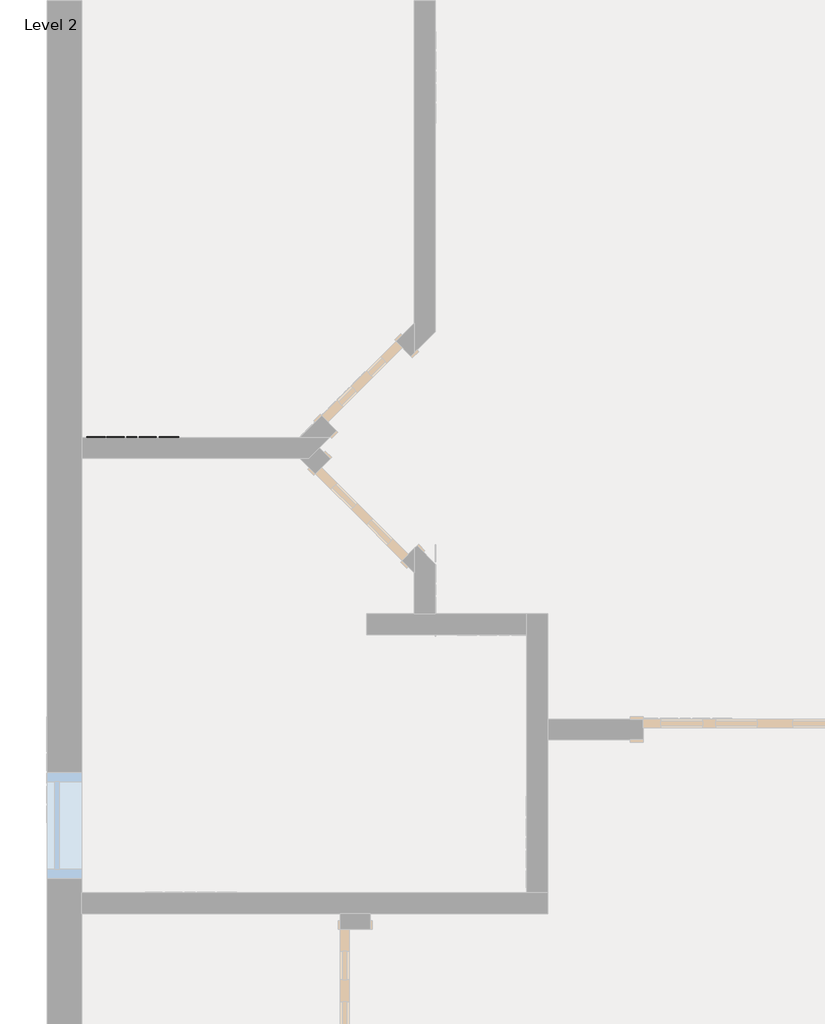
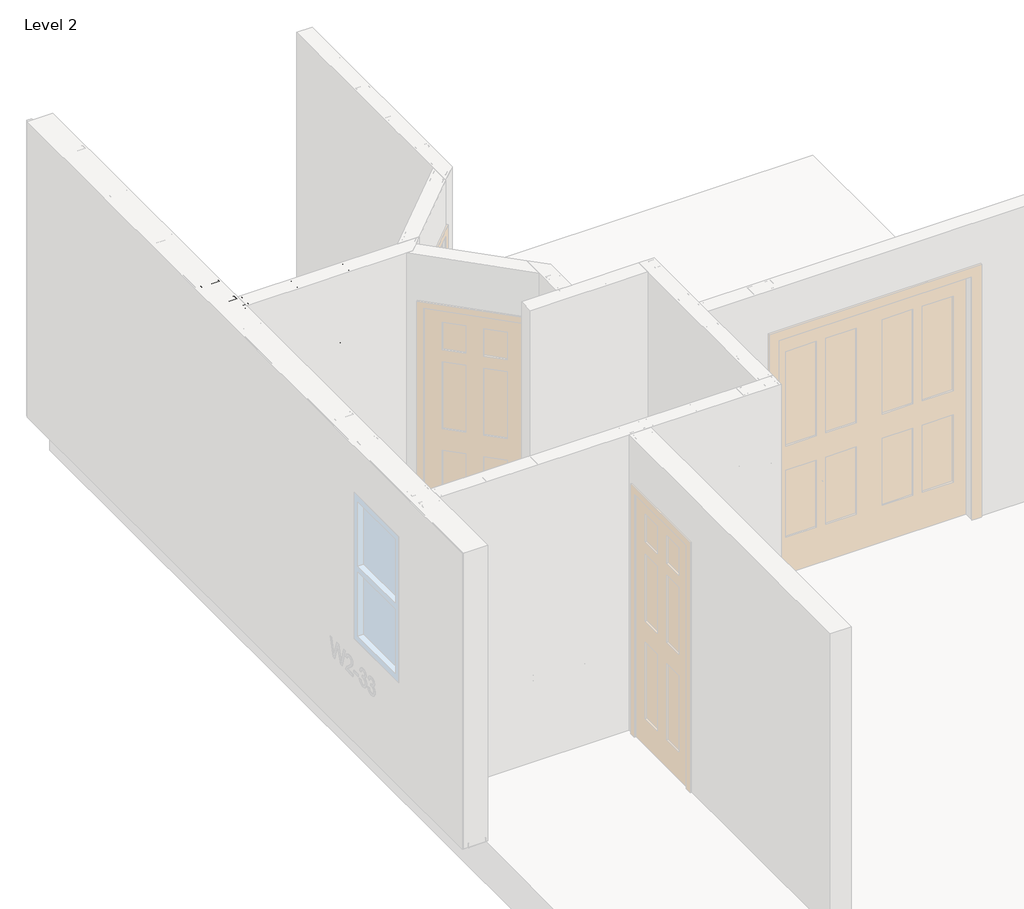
# One storey, part 28 of 46: 8 columns, 2 beams, 1 fastener.
"""IFC4 building model written with IfcOpenShell, lengths in millimetres."""

from ifc_helpers import new_model, si_unit, point, frame, origin, place, context, project, spatial, circle_curve, ellipse_curve, trimmed, transform, mapped, element, save
from ifc_brep_helpers import plane_surface, extruded_surface, advanced_brep
from components import beam_350nf150_33_a1fc3611, beam_350nf150_33_3c5b6d2f, column_550nf150_43_e978d052, panellabel_82f71f91

model = new_model("IFC4")

# Units and contexts
model_context = context("Model", 3, world=origin())
ifc_project = project(units=[si_unit("LENGTHUNIT", "METRE", prefix="MILLI")], contexts=[model_context])

# Site, building, storey
site = spatial("IfcSite", under=ifc_project)
building = spatial("IfcBuilding", under=site)
storey = spatial("IfcBuildingStorey", under=building, Name="Level 2", Elevation=3060.7)

# Beams
placement = place(None, origin())
beam_350nf150_33_shape = beam_350nf150_33_a1fc3611(model_context)
element("IfcBeam", 1, ObjectType="BIMSF-SSMA-S : 350NF150-33", at=placement, inside=storey, context=model_context, shape_type="MappedRepresentation", body=[
    mapped(beam_350nf150_33_shape, transform((-14495.2231513, 11261.852221, 3076.575), x_axis=(1.0000000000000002, 0.0, 0.0), y_axis=(0.0, 0.0, -1.0000000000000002), z_axis=(0.0, 1.0000000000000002, 0.0))),
])
beam_350nf150_33_2_shape = beam_350nf150_33_3c5b6d2f(model_context)
element("IfcBeam", 2, ObjectType="BIMSF-SSMA-S : 350NF150-33", at=placement, inside=storey, context=model_context, shape_type="MappedRepresentation", body=[
    mapped(beam_350nf150_33_2_shape, transform((-13123.9913349, 10383.1422795, 3076.575), x_axis=(0.0, -1.0000000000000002, 0.0), y_axis=(0.0, 0.0, -1.0000000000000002), z_axis=(1.0000000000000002, 0.0, 0.0))),
])

# Columns
element("IfcColumn", 3, ObjectType="BIMSF-SSMA-S-Column : 350NF150-33", at=placement, inside=storey, context=model_context, shape_type="AdvancedBrep", body=[
    advanced_brep(
    [(-13414.7248096, 10198.227221, 3061.5929687), (-13414.7248096, 10287.127221, 3061.5929687), (-13376.6248096, 10287.127221, 3061.5929687), (-13376.6248096, 10281.4697052, 3061.5929687), (-13377.5071254, 10281.4697052, 3061.5929687), (-13377.5071254, 10286.2449052, 3061.5929687), (-13413.8424938, 10286.2449052, 3061.5929687), (-13413.8424938, 10199.1095367, 3061.5929687), (-13377.5071254, 10199.1095367, 3061.5929687), (-13377.5071254, 10203.8847367, 3061.5929687), (-13376.6248096, 10203.8847367, 3061.5929687), (-13376.6248096, 10198.227221, 3061.5929687), (-13414.7248096, 10198.227221, 5523.6070313), (-13414.7248096, 10287.127221, 5523.6070313), (-13414.7248096, 10255.377221, 3671.1929688), (-13414.7248096, 10229.977221, 3671.1929688), (-13414.7248096, 10255.377221, 4890.3929687), (-13414.7248096, 10229.977221, 4890.3929687), (-13376.6248096, 10287.127221, 5523.6070313), (-13376.6248096, 10281.4697052, 5523.6070313), (-13377.5071254, 10281.4697052, 5523.6070313), (-13377.5071254, 10286.2449052, 5523.6070313), (-13413.8424938, 10286.2449052, 5523.6070313), (-13413.8424938, 10199.1095367, 5523.6070313), (-13413.8424938, 10229.977221, 3671.1929688), (-13413.8424938, 10255.377221, 3671.1929688), (-13413.8424938, 10229.977221, 4890.3929687), (-13413.8424938, 10255.377221, 4890.3929687), (-13377.5071254, 10199.1095367, 5523.6070313), (-13377.5071254, 10203.8847367, 5523.6070313), (-13376.6248096, 10203.8847367, 5523.6070313), (-13376.6248096, 10198.227221, 5523.6070313)],
    [
        (0, 1),
        (1, 2),
        (2, 3),
        (3, 4),
        (4, 5),
        (5, 6),
        (6, 7),
        (7, 8),
        (8, 9),
        (9, 10),
        (10, 11),
        (11, 0),
        (0, 12),
        (12, 13),
        (13, 1),
        (14, 15, circle_curve(frame((-13414.7248096, 10242.677221, 3671.1929687), z_axis=(1.0, 0.0, 0.0), x_axis=(0.0, 1.0, 0.0)), 12.7)),
        (15, 14, circle_curve(frame((-13414.7248096, 10242.677221, 3671.1929687), z_axis=(1.0, 0.0, 0.0), x_axis=(0.0, 1.0, 0.0)), 12.7)),
        (16, 17, circle_curve(frame((-13414.7248096, 10242.677221, 4890.3929687), z_axis=(1.0, 0.0, 0.0), x_axis=(0.0, 1.0, 0.0)), 12.7)),
        (17, 16, circle_curve(frame((-13414.7248096, 10242.677221, 4890.3929687), z_axis=(1.0, 0.0, 0.0), x_axis=(0.0, 1.0, 0.0)), 12.7)),
        (13, 18),
        (18, 2),
        (18, 19),
        (19, 3),
        (19, 20),
        (20, 4),
        (20, 21),
        (21, 5),
        (21, 22),
        (22, 6),
        (22, 23),
        (23, 7),
        (24, 25, circle_curve(frame((-13413.8424938, 10242.677221, 3671.1929688), z_axis=(-1.0, 0.0, 0.0), x_axis=(0.0, 1.0, 0.0)), 12.7)),
        (25, 24, circle_curve(frame((-13413.8424938, 10242.677221, 3671.1929688), z_axis=(-1.0, 0.0, 0.0), x_axis=(0.0, 1.0, 0.0)), 12.7)),
        (26, 27, circle_curve(frame((-13413.8424938, 10242.677221, 4890.3929687), z_axis=(-1.0, 0.0, 0.0), x_axis=(0.0, 1.0, 0.0)), 12.7)),
        (27, 26, circle_curve(frame((-13413.8424938, 10242.677221, 4890.3929687), z_axis=(-1.0, 0.0, 0.0), x_axis=(0.0, 1.0, 0.0)), 12.7)),
        (23, 28),
        (28, 8),
        (28, 29),
        (29, 9),
        (29, 30),
        (30, 10),
        (30, 31),
        (31, 11),
        (31, 12),
        (24, 15),
        (14, 25),
        (26, 17),
        (16, 27),
    ],
    [
        plane_surface(frame((-13414.7248096, 10198.227221, 3061.5929687), z_axis=(0.0, 0.0, -1.0), x_axis=(-1.0, 0.0, 0.0))),
        plane_surface(frame((-13414.7248096, 10287.127221, 5523.6070313), z_axis=(-1.0, 0.0, 0.0), x_axis=(0.0, 0.0, -1.0))),
        plane_surface(frame((-13376.6248096, 10287.127221, 5523.6070313), z_axis=(0.0, 1.0, 0.0), x_axis=(0.0, 0.0, -1.0))),
        plane_surface(frame((-13376.6248096, 10281.4697052, 5523.6070313), z_axis=(1.0, 0.0, 0.0), x_axis=(0.0, 0.0, -1.0))),
        plane_surface(frame((-13377.5071254, 10281.4697052, 5523.6070313), z_axis=(0.0, -1.0, 0.0), x_axis=(0.0, 0.0, -1.0))),
        plane_surface(frame((-13377.5071254, 10286.2449052, 5523.6070313), z_axis=(-1.0, 0.0, 0.0), x_axis=(0.0, 0.0, -1.0))),
        plane_surface(frame((-13413.8424938, 10286.2449052, 5523.6070313), z_axis=(0.0, -1.0, 0.0), x_axis=(0.0, 0.0, -1.0))),
        plane_surface(frame((-13413.8424938, 10199.1095367, 5523.6070313), z_axis=(1.0, 0.0, 0.0), x_axis=(0.0, 0.0, -1.0))),
        plane_surface(frame((-13377.5071254, 10199.1095367, 5523.6070313), z_axis=(0.0, 1.0, 0.0), x_axis=(0.0, 0.0, -1.0))),
        plane_surface(frame((-13377.5071254, 10203.8847367, 5523.6070313), z_axis=(-1.0, 0.0, 0.0), x_axis=(0.0, 0.0, -1.0))),
        plane_surface(frame((-13376.6248096, 10203.8847367, 5523.6070313), z_axis=(0.0, 1.0, 0.0), x_axis=(0.0, 0.0, -1.0))),
        plane_surface(frame((-13376.6248096, 10198.227221, 5523.6070313), z_axis=(1.0, 0.0, 0.0), x_axis=(0.0, 0.0, -1.0))),
        plane_surface(frame((-13414.7248096, 10198.227221, 5523.6070313), z_axis=(0.0, -1.0, 0.0), x_axis=(0.0, 0.0, -1.0))),
        plane_surface(frame((-13414.7248096, 10198.227221, 5523.6070313), z_axis=(0.0, 0.0, 1.0), x_axis=(1.0, 0.0, 0.0))),
        extruded_surface(trimmed(ellipse_curve(frame((-10933.6607471, 10242.677221, 3671.1929688), z_axis=(-1.0, 0.0, 0.0), x_axis=(0.0, 1.0, 0.0)), 12.7, 12.7), [point((-10933.6607471, 10229.977221, 3671.1929688))], [point((-10933.6607471, 10255.377221, 3671.1929688))], True, "CARTESIAN"), (4924.028125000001, 0.0, 0.0), 4924.028125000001),
        extruded_surface(trimmed(ellipse_curve(frame((-10933.6607471, 10242.677221, 3671.1929688), z_axis=(-1.0, 0.0, 0.0), x_axis=(0.0, 1.0, 0.0)), 12.7, 12.7), [point((-10933.6607471, 10255.377221, 3671.1929688))], [point((-10933.6607471, 10229.977221, 3671.1929688))], True, "CARTESIAN"), (4924.028125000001, 0.0, 0.0), 4924.028125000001),
        extruded_surface(trimmed(ellipse_curve(frame((-10933.6607471, 10242.677221, 4890.3929687), z_axis=(-1.0, 0.0, 0.0), x_axis=(0.0, 1.0, 0.0)), 12.7, 12.7), [point((-10933.6607471, 10229.977221, 4890.3929687))], [point((-10933.6607471, 10255.377221, 4890.3929687))], True, "CARTESIAN"), (4924.028125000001, 0.0, 0.0), 4924.028125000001),
        extruded_surface(trimmed(ellipse_curve(frame((-10933.6607471, 10242.677221, 4890.3929687), z_axis=(-1.0, 0.0, 0.0), x_axis=(0.0, 1.0, 0.0)), 12.7, 12.7), [point((-10933.6607471, 10255.377221, 4890.3929687))], [point((-10933.6607471, 10229.977221, 4890.3929687))], True, "CARTESIAN"), (4924.028125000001, 0.0, 0.0), 4924.028125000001),
    ],
    [
        (0, [[1, 2, 3, 4, 5, 6, 7, 8, 9, 10, 11, 12]]),
        (1, [[-1, 13, 14, 15], [16, 17], [18, 19]]),
        (2, [[-2, -15, 20, 21]]),
        (3, [[-3, -21, 22, 23]]),
        (4, [[-4, -23, 24, 25]]),
        (5, [[-5, -25, 26, 27]]),
        (6, [[-6, -27, 28, 29]]),
        (7, [[-7, -29, 30, 31], [32, 33], [34, 35]]),
        (8, [[-8, -31, 36, 37]]),
        (9, [[-9, -37, 38, 39]]),
        (10, [[-10, -39, 40, 41]]),
        (11, [[-11, -41, 42, 43]]),
        (12, [[-12, -43, 44, -13]]),
        (13, [[-14, -44, -42, -40, -38, -36, -30, -28, -26, -24, -22, -20]]),
        (14, [[45, -16, 46, -32]]),
        (15, [[-45, -33, -46, -17]]),
        (16, [[47, -18, 48, -34]]),
        (17, [[-47, -35, -48, -19]]),
    ],
),
])
element("IfcColumn", 4, ObjectType="BIMSF-SSMA-S-Column : 350NF150-33", at=placement, inside=storey, context=model_context, shape_type="AdvancedBrep", body=[
    advanced_brep(
    [(-13222.4163349, 10287.127221, 3061.5929687), (-13222.4163349, 10198.227221, 3061.5929687), (-13260.5163349, 10198.227221, 3061.5929687), (-13260.5163349, 10203.8847367, 3061.5929687), (-13259.6340191, 10203.8847367, 3061.5929687), (-13259.6340191, 10199.1095367, 3061.5929687), (-13223.2986507, 10199.1095367, 3061.5929687), (-13223.2986507, 10286.2449052, 3061.5929687), (-13259.6340191, 10286.2449052, 3061.5929687), (-13259.6340191, 10281.4697052, 3061.5929687), (-13260.5163349, 10281.4697052, 3061.5929687), (-13260.5163349, 10287.127221, 3061.5929687), (-13222.4163349, 10287.127221, 5523.6070313), (-13222.4163349, 10198.227221, 5523.6070313), (-13222.4163349, 10229.977221, 3671.1929688), (-13222.4163349, 10255.377221, 3671.1929688), (-13222.4163349, 10229.977221, 4890.3929687), (-13222.4163349, 10255.377221, 4890.3929687), (-13260.5163349, 10198.227221, 5523.6070313), (-13260.5163349, 10203.8847367, 5523.6070313), (-13259.6340191, 10203.8847367, 5523.6070313), (-13259.6340191, 10199.1095367, 5523.6070313), (-13223.2986507, 10199.1095367, 5523.6070313), (-13223.2986507, 10286.2449052, 5523.6070313), (-13223.2986507, 10255.377221, 3671.1929688), (-13223.2986507, 10229.977221, 3671.1929688), (-13223.2986507, 10255.377221, 4890.3929688), (-13223.2986507, 10229.977221, 4890.3929687), (-13259.6340191, 10286.2449052, 5523.6070313), (-13259.6340191, 10281.4697052, 5523.6070313), (-13260.5163349, 10281.4697052, 5523.6070313), (-13260.5163349, 10287.127221, 5523.6070313)],
    [
        (0, 1),
        (1, 2),
        (2, 3),
        (3, 4),
        (4, 5),
        (5, 6),
        (6, 7),
        (7, 8),
        (8, 9),
        (9, 10),
        (10, 11),
        (11, 0),
        (0, 12),
        (12, 13),
        (13, 1),
        (14, 15, circle_curve(frame((-13222.4163349, 10242.677221, 3671.1929687), z_axis=(-1.0, 0.0, 0.0), x_axis=(0.0, -1.0, 0.0)), 12.7)),
        (15, 14, circle_curve(frame((-13222.4163349, 10242.677221, 3671.1929688), z_axis=(-1.0, 0.0, 0.0), x_axis=(0.0, -1.0, 0.0)), 12.7)),
        (16, 17, circle_curve(frame((-13222.4163349, 10242.677221, 4890.3929687), z_axis=(-1.0, 0.0, 0.0), x_axis=(0.0, -1.0, 0.0)), 12.7)),
        (17, 16, circle_curve(frame((-13222.4163349, 10242.677221, 4890.3929687), z_axis=(-1.0, 0.0, 0.0), x_axis=(0.0, -1.0, 0.0)), 12.7)),
        (13, 18),
        (18, 2),
        (18, 19),
        (19, 3),
        (19, 20),
        (20, 4),
        (20, 21),
        (21, 5),
        (21, 22),
        (22, 6),
        (22, 23),
        (23, 7),
        (24, 25, circle_curve(frame((-13223.2986507, 10242.677221, 3671.1929688), z_axis=(1.0, 0.0, 0.0), x_axis=(0.0, -1.0, 0.0)), 12.7)),
        (25, 24, circle_curve(frame((-13223.2986507, 10242.677221, 3671.1929688), z_axis=(1.0, 0.0, 0.0), x_axis=(0.0, -1.0, 0.0)), 12.7)),
        (26, 27, circle_curve(frame((-13223.2986507, 10242.677221, 4890.3929687), z_axis=(1.0, 0.0, 0.0), x_axis=(0.0, -1.0, 0.0)), 12.7)),
        (27, 26, circle_curve(frame((-13223.2986507, 10242.677221, 4890.3929687), z_axis=(1.0, 0.0, 0.0), x_axis=(0.0, -1.0, 0.0)), 12.7)),
        (23, 28),
        (28, 8),
        (28, 29),
        (29, 9),
        (29, 30),
        (30, 10),
        (30, 31),
        (31, 11),
        (31, 12),
        (24, 15),
        (14, 25),
        (26, 17),
        (16, 27),
    ],
    [
        plane_surface(frame((-13222.4163349, 10287.127221, 3061.5929687), z_axis=(0.0, 0.0, -1.0), x_axis=(1.0, 0.0, 0.0))),
        plane_surface(frame((-13222.4163349, 10198.227221, 5523.6070313), z_axis=(1.0, 0.0, 0.0), x_axis=(0.0, 0.0, -1.0))),
        plane_surface(frame((-13260.5163349, 10198.227221, 5523.6070313), z_axis=(0.0, -1.0, 0.0), x_axis=(0.0, 0.0, -1.0))),
        plane_surface(frame((-13260.5163349, 10203.8847367, 5523.6070313), z_axis=(-1.0, 0.0, 0.0), x_axis=(0.0, 0.0, -1.0))),
        plane_surface(frame((-13259.6340191, 10203.8847367, 5523.6070313), z_axis=(0.0, 1.0, 0.0), x_axis=(0.0, 0.0, -1.0))),
        plane_surface(frame((-13259.6340191, 10199.1095367, 5523.6070313), z_axis=(1.0, 0.0, 0.0), x_axis=(0.0, 0.0, -1.0))),
        plane_surface(frame((-13223.2986507, 10199.1095367, 5523.6070313), z_axis=(0.0, 1.0, 0.0), x_axis=(0.0, 0.0, -1.0))),
        plane_surface(frame((-13223.2986507, 10286.2449052, 5523.6070313), z_axis=(-1.0, 0.0, 0.0), x_axis=(0.0, 0.0, -1.0))),
        plane_surface(frame((-13259.6340191, 10286.2449052, 5523.6070313), z_axis=(0.0, -1.0, 0.0), x_axis=(0.0, 0.0, -1.0))),
        plane_surface(frame((-13259.6340191, 10281.4697052, 5523.6070313), z_axis=(1.0, 0.0, 0.0), x_axis=(0.0, 0.0, -1.0))),
        plane_surface(frame((-13260.5163349, 10281.4697052, 5523.6070313), z_axis=(0.0, -1.0, 0.0), x_axis=(0.0, 0.0, -1.0))),
        plane_surface(frame((-13260.5163349, 10287.127221, 5523.6070313), z_axis=(-1.0, 0.0, 0.0), x_axis=(0.0, 0.0, -1.0))),
        plane_surface(frame((-13222.4163349, 10287.127221, 5523.6070313), z_axis=(0.0, 1.0, 0.0), x_axis=(0.0, 0.0, -1.0))),
        plane_surface(frame((-13222.4163349, 10287.127221, 5523.6070313), z_axis=(0.0, 0.0, 1.0), x_axis=(-1.0, 0.0, 0.0))),
        extruded_surface(trimmed(ellipse_curve(frame((-15703.4803974, 10242.677221, 3671.1929688), z_axis=(1.0, 0.0, 0.0), x_axis=(0.0, -1.0, 0.0)), 12.7, 12.7), [point((-15703.4803974, 10255.377221, 3671.1929688))], [point((-15703.4803974, 10229.977221, 3671.1929688))], True, "CARTESIAN"), (-4924.028124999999, 0.0, 0.0), 4924.028124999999),
        extruded_surface(trimmed(ellipse_curve(frame((-15703.4803974, 10242.677221, 3671.1929688), z_axis=(1.0, 0.0, 0.0), x_axis=(0.0, -1.0, 0.0)), 12.7, 12.7), [point((-15703.4803974, 10229.977221, 3671.1929688))], [point((-15703.4803974, 10255.377221, 3671.1929688))], True, "CARTESIAN"), (-4924.028124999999, 0.0, 0.0), 4924.028124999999),
        extruded_surface(trimmed(ellipse_curve(frame((-15703.4803974, 10242.677221, 4890.3929687), z_axis=(1.0, 0.0, 0.0), x_axis=(0.0, -1.0, 0.0)), 12.7, 12.7), [point((-15703.4803974, 10255.377221, 4890.3929687))], [point((-15703.4803974, 10229.977221, 4890.3929687))], True, "CARTESIAN"), (-4924.028124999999, 0.0, 0.0), 4924.028124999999),
        extruded_surface(trimmed(ellipse_curve(frame((-15703.4803974, 10242.677221, 4890.3929687), z_axis=(1.0, 0.0, 0.0), x_axis=(0.0, -1.0, 0.0)), 12.7, 12.7), [point((-15703.4803974, 10229.977221, 4890.3929687))], [point((-15703.4803974, 10255.377221, 4890.3929687))], True, "CARTESIAN"), (-4924.028124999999, 0.0, 0.0), 4924.028124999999),
    ],
    [
        (0, [[1, 2, 3, 4, 5, 6, 7, 8, 9, 10, 11, 12]]),
        (1, [[-1, 13, 14, 15], [16, 17], [18, 19]]),
        (2, [[-2, -15, 20, 21]]),
        (3, [[-3, -21, 22, 23]]),
        (4, [[-4, -23, 24, 25]]),
        (5, [[-5, -25, 26, 27]]),
        (6, [[-6, -27, 28, 29]]),
        (7, [[-7, -29, 30, 31], [32, 33], [34, 35]]),
        (8, [[-8, -31, 36, 37]]),
        (9, [[-9, -37, 38, 39]]),
        (10, [[-10, -39, 40, 41]]),
        (11, [[-11, -41, 42, 43]]),
        (12, [[-12, -43, 44, -13]]),
        (13, [[-14, -44, -42, -40, -38, -36, -30, -28, -26, -24, -22, -20]]),
        (14, [[45, -16, 46, -32]]),
        (15, [[-45, -33, -46, -17]]),
        (16, [[47, -18, 48, -34]]),
        (17, [[-47, -35, -48, -19]]),
    ],
),
])
element("IfcColumn", 5, ObjectType="BIMSF-SSMA-S-Column : 350NF150-33", at=placement, inside=storey, context=model_context, shape_type="AdvancedBrep", body=[
    advanced_brep(
    [(-15124.2413349, 11217.402221, 3061.5929687), (-15124.2413349, 11306.302221, 3061.5929687), (-15086.1413349, 11306.302221, 3061.5929687), (-15086.1413349, 11300.6447052, 3061.5929687), (-15087.0236507, 11300.6447052, 3061.5929687), (-15087.0236507, 11305.4199052, 3061.5929687), (-15123.3590191, 11305.4199052, 3061.5929687), (-15123.3590191, 11218.2845367, 3061.5929687), (-15087.0236507, 11218.2845367, 3061.5929687), (-15087.0236507, 11223.0597367, 3061.5929687), (-15086.1413349, 11223.0597367, 3061.5929687), (-15086.1413349, 11217.402221, 3061.5929687), (-15124.2413349, 11217.402221, 5523.6070313), (-15124.2413349, 11306.302221, 5523.6070313), (-15124.2413349, 11274.552221, 3671.1929688), (-15124.2413349, 11249.152221, 3671.1929688), (-15124.2413349, 11274.552221, 4890.3929687), (-15124.2413349, 11249.152221, 4890.3929687), (-15086.1413349, 11306.302221, 5523.6070313), (-15086.1413349, 11300.6447052, 5523.6070313), (-15087.0236507, 11300.6447052, 5523.6070313), (-15087.0236507, 11305.4199052, 5523.6070313), (-15123.3590191, 11305.4199052, 5523.6070313), (-15123.3590191, 11218.2845367, 5523.6070313), (-15123.3590191, 11249.152221, 3671.1929688), (-15123.3590191, 11274.552221, 3671.1929688), (-15123.3590191, 11249.152221, 4890.3929687), (-15123.3590191, 11274.552221, 4890.3929687), (-15087.0236507, 11218.2845367, 5523.6070313), (-15087.0236507, 11223.0597367, 5523.6070313), (-15086.1413349, 11223.0597367, 5523.6070313), (-15086.1413349, 11217.402221, 5523.6070313)],
    [
        (0, 1),
        (1, 2),
        (2, 3),
        (3, 4),
        (4, 5),
        (5, 6),
        (6, 7),
        (7, 8),
        (8, 9),
        (9, 10),
        (10, 11),
        (11, 0),
        (0, 12),
        (12, 13),
        (13, 1),
        (14, 15, circle_curve(frame((-15124.2413349, 11261.852221, 3671.1929687), z_axis=(1.0, 0.0, 0.0), x_axis=(0.0, 1.0, 0.0)), 12.7)),
        (15, 14, circle_curve(frame((-15124.2413349, 11261.852221, 3671.1929687), z_axis=(1.0, 0.0, 0.0), x_axis=(0.0, 1.0, 0.0)), 12.7)),
        (16, 17, circle_curve(frame((-15124.2413349, 11261.852221, 4890.3929687), z_axis=(1.0, 0.0, 0.0), x_axis=(0.0, 1.0, 0.0)), 12.7)),
        (17, 16, circle_curve(frame((-15124.2413349, 11261.852221, 4890.3929687), z_axis=(1.0, 0.0, 0.0), x_axis=(0.0, 1.0, 0.0)), 12.7)),
        (13, 18),
        (18, 2),
        (18, 19),
        (19, 3),
        (19, 20),
        (20, 4),
        (20, 21),
        (21, 5),
        (21, 22),
        (22, 6),
        (22, 23),
        (23, 7),
        (24, 25, circle_curve(frame((-15123.3590191, 11261.852221, 3671.1929688), z_axis=(-1.0, 0.0, 0.0), x_axis=(0.0, 1.0, 0.0)), 12.7)),
        (25, 24, circle_curve(frame((-15123.3590191, 11261.852221, 3671.1929688), z_axis=(-1.0, 0.0, 0.0), x_axis=(0.0, 1.0, 0.0)), 12.7)),
        (26, 27, circle_curve(frame((-15123.3590191, 11261.852221, 4890.3929687), z_axis=(-1.0, 0.0, 0.0), x_axis=(0.0, 1.0, 0.0)), 12.7)),
        (27, 26, circle_curve(frame((-15123.3590191, 11261.852221, 4890.3929687), z_axis=(-1.0, 0.0, 0.0), x_axis=(0.0, 1.0, 0.0)), 12.7)),
        (23, 28),
        (28, 8),
        (28, 29),
        (29, 9),
        (29, 30),
        (30, 10),
        (30, 31),
        (31, 11),
        (31, 12),
        (24, 15),
        (14, 25),
        (26, 17),
        (16, 27),
    ],
    [
        plane_surface(frame((-15124.2413349, 11217.402221, 3061.5929687), z_axis=(0.0, 0.0, -1.0), x_axis=(-1.0, 0.0, 0.0))),
        plane_surface(frame((-15124.2413349, 11306.302221, 5523.6070313), z_axis=(-1.0, 0.0, 0.0), x_axis=(0.0, 0.0, -1.0))),
        plane_surface(frame((-15086.1413349, 11306.302221, 5523.6070313), z_axis=(0.0, 1.0, 0.0), x_axis=(0.0, 0.0, -1.0))),
        plane_surface(frame((-15086.1413349, 11300.6447052, 5523.6070313), z_axis=(1.0, 0.0, 0.0), x_axis=(0.0, 0.0, -1.0))),
        plane_surface(frame((-15087.0236507, 11300.6447052, 5523.6070313), z_axis=(0.0, -1.0, 0.0), x_axis=(0.0, 0.0, -1.0))),
        plane_surface(frame((-15087.0236507, 11305.4199052, 5523.6070313), z_axis=(-1.0, 0.0, 0.0), x_axis=(0.0, 0.0, -1.0))),
        plane_surface(frame((-15123.3590191, 11305.4199052, 5523.6070313), z_axis=(0.0, -1.0, 0.0), x_axis=(0.0, 0.0, -1.0))),
        plane_surface(frame((-15123.3590191, 11218.2845367, 5523.6070313), z_axis=(1.0, 0.0, 0.0), x_axis=(0.0, 0.0, -1.0))),
        plane_surface(frame((-15087.0236507, 11218.2845367, 5523.6070313), z_axis=(0.0, 1.0, 0.0), x_axis=(0.0, 0.0, -1.0))),
        plane_surface(frame((-15087.0236507, 11223.0597367, 5523.6070313), z_axis=(-1.0, 0.0, 0.0), x_axis=(0.0, 0.0, -1.0))),
        plane_surface(frame((-15086.1413349, 11223.0597367, 5523.6070313), z_axis=(0.0, 1.0, 0.0), x_axis=(0.0, 0.0, -1.0))),
        plane_surface(frame((-15086.1413349, 11217.402221, 5523.6070313), z_axis=(1.0, 0.0, 0.0), x_axis=(0.0, 0.0, -1.0))),
        plane_surface(frame((-15124.2413349, 11217.402221, 5523.6070313), z_axis=(0.0, -1.0, 0.0), x_axis=(0.0, 0.0, -1.0))),
        plane_surface(frame((-15124.2413349, 11217.402221, 5523.6070313), z_axis=(0.0, 0.0, 1.0), x_axis=(1.0, 0.0, 0.0))),
        extruded_surface(trimmed(ellipse_curve(frame((-12643.1772724, 11261.852221, 3671.1929688), z_axis=(-1.0, 0.0, 0.0), x_axis=(0.0, 1.0, 0.0)), 12.7, 12.7), [point((-12643.1772724, 11249.152221, 3671.1929688))], [point((-12643.1772724, 11274.552221, 3671.1929688))], True, "CARTESIAN"), (4924.028125, 0.0, 0.0), 4924.028125),
        extruded_surface(trimmed(ellipse_curve(frame((-12643.1772724, 11261.852221, 3671.1929688), z_axis=(-1.0, 0.0, 0.0), x_axis=(0.0, 1.0, 0.0)), 12.7, 12.7), [point((-12643.1772724, 11274.552221, 3671.1929688))], [point((-12643.1772724, 11249.152221, 3671.1929688))], True, "CARTESIAN"), (4924.028125, 0.0, 0.0), 4924.028125),
        extruded_surface(trimmed(ellipse_curve(frame((-12643.1772724, 11261.852221, 4890.3929687), z_axis=(-1.0, 0.0, 0.0), x_axis=(0.0, 1.0, 0.0)), 12.7, 12.7), [point((-12643.1772724, 11249.152221, 4890.3929687))], [point((-12643.1772724, 11274.552221, 4890.3929687))], True, "CARTESIAN"), (4924.028125, 0.0, 0.0), 4924.028125),
        extruded_surface(trimmed(ellipse_curve(frame((-12643.1772724, 11261.852221, 4890.3929687), z_axis=(-1.0, 0.0, 0.0), x_axis=(0.0, 1.0, 0.0)), 12.7, 12.7), [point((-12643.1772724, 11274.552221, 4890.3929687))], [point((-12643.1772724, 11249.152221, 4890.3929687))], True, "CARTESIAN"), (4924.028125, 0.0, 0.0), 4924.028125),
    ],
    [
        (0, [[1, 2, 3, 4, 5, 6, 7, 8, 9, 10, 11, 12]]),
        (1, [[-1, 13, 14, 15], [16, 17], [18, 19]]),
        (2, [[-2, -15, 20, 21]]),
        (3, [[-3, -21, 22, 23]]),
        (4, [[-4, -23, 24, 25]]),
        (5, [[-5, -25, 26, 27]]),
        (6, [[-6, -27, 28, 29]]),
        (7, [[-7, -29, 30, 31], [32, 33], [34, 35]]),
        (8, [[-8, -31, 36, 37]]),
        (9, [[-9, -37, 38, 39]]),
        (10, [[-10, -39, 40, 41]]),
        (11, [[-11, -41, 42, 43]]),
        (12, [[-12, -43, 44, -13]]),
        (13, [[-14, -44, -42, -40, -38, -36, -30, -28, -26, -24, -22, -20]]),
        (14, [[45, -16, 46, -32]]),
        (15, [[-45, -33, -46, -17]]),
        (16, [[47, -18, 48, -34]]),
        (17, [[-47, -35, -48, -19]]),
    ],
),
])
element("IfcColumn", 6, ObjectType="BIMSF-SSMA-S-Column : 350NF150-33", at=placement, inside=storey, context=model_context, shape_type="AdvancedBrep", body=[
    advanced_brep(
    [(-14736.8913349, 11217.402221, 3061.5929687), (-14736.8913349, 11306.302221, 3061.5929687), (-14698.7913349, 11306.302221, 3061.5929687), (-14698.7913349, 11300.6447052, 3061.5929687), (-14699.6736507, 11300.6447052, 3061.5929687), (-14699.6736507, 11305.4199052, 3061.5929687), (-14736.0090191, 11305.4199052, 3061.5929687), (-14736.0090191, 11218.2845367, 3061.5929687), (-14699.6736507, 11218.2845367, 3061.5929687), (-14699.6736507, 11223.0597367, 3061.5929687), (-14698.7913349, 11223.0597367, 3061.5929687), (-14698.7913349, 11217.402221, 3061.5929687), (-14736.8913349, 11217.402221, 5523.6070313), (-14736.8913349, 11306.302221, 5523.6070313), (-14736.8913349, 11274.552221, 3671.1929688), (-14736.8913349, 11249.152221, 3671.1929688), (-14736.8913349, 11274.552221, 4890.3929687), (-14736.8913349, 11249.152221, 4890.3929687), (-14698.7913349, 11306.302221, 5523.6070313), (-14698.7913349, 11300.6447052, 5523.6070313), (-14699.6736507, 11300.6447052, 5523.6070313), (-14699.6736507, 11305.4199052, 5523.6070313), (-14736.0090191, 11305.4199052, 5523.6070313), (-14736.0090191, 11218.2845367, 5523.6070313), (-14736.0090191, 11249.152221, 3671.1929688), (-14736.0090191, 11274.552221, 3671.1929688), (-14736.0090191, 11249.152221, 4890.3929687), (-14736.0090191, 11274.552221, 4890.3929687), (-14699.6736507, 11218.2845367, 5523.6070313), (-14699.6736507, 11223.0597367, 5523.6070313), (-14698.7913349, 11223.0597367, 5523.6070313), (-14698.7913349, 11217.402221, 5523.6070313)],
    [
        (0, 1),
        (1, 2),
        (2, 3),
        (3, 4),
        (4, 5),
        (5, 6),
        (6, 7),
        (7, 8),
        (8, 9),
        (9, 10),
        (10, 11),
        (11, 0),
        (0, 12),
        (12, 13),
        (13, 1),
        (14, 15, circle_curve(frame((-14736.8913349, 11261.852221, 3671.1929688), z_axis=(1.0, 0.0, 0.0), x_axis=(0.0, 1.0, 0.0)), 12.7)),
        (15, 14, circle_curve(frame((-14736.8913349, 11261.852221, 3671.1929688), z_axis=(1.0, 0.0, 0.0), x_axis=(0.0, 1.0, 0.0)), 12.7)),
        (16, 17, circle_curve(frame((-14736.8913349, 11261.852221, 4890.3929687), z_axis=(1.0, 0.0, 0.0), x_axis=(0.0, 1.0, 0.0)), 12.7)),
        (17, 16, circle_curve(frame((-14736.8913349, 11261.852221, 4890.3929687), z_axis=(1.0, 0.0, 0.0), x_axis=(0.0, 1.0, 0.0)), 12.7)),
        (13, 18),
        (18, 2),
        (18, 19),
        (19, 3),
        (19, 20),
        (20, 4),
        (20, 21),
        (21, 5),
        (21, 22),
        (22, 6),
        (22, 23),
        (23, 7),
        (24, 25, circle_curve(frame((-14736.0090191, 11261.852221, 3671.1929688), z_axis=(-1.0, 0.0, 0.0), x_axis=(0.0, 1.0, 0.0)), 12.7)),
        (25, 24, circle_curve(frame((-14736.0090191, 11261.852221, 3671.1929688), z_axis=(-1.0, 0.0, 0.0), x_axis=(0.0, 1.0, 0.0)), 12.7)),
        (26, 27, circle_curve(frame((-14736.0090191, 11261.852221, 4890.3929687), z_axis=(-1.0, 0.0, 0.0), x_axis=(0.0, 1.0, 0.0)), 12.7)),
        (27, 26, circle_curve(frame((-14736.0090191, 11261.852221, 4890.3929687), z_axis=(-1.0, 0.0, 0.0), x_axis=(0.0, 1.0, 0.0)), 12.7)),
        (23, 28),
        (28, 8),
        (28, 29),
        (29, 9),
        (29, 30),
        (30, 10),
        (30, 31),
        (31, 11),
        (31, 12),
        (24, 15),
        (14, 25),
        (26, 17),
        (16, 27),
    ],
    [
        plane_surface(frame((-14736.8913349, 11217.402221, 3061.5929687), z_axis=(0.0, 0.0, -1.0), x_axis=(-1.0, 0.0, 0.0))),
        plane_surface(frame((-14736.8913349, 11306.302221, 5523.6070313), z_axis=(-1.0, 0.0, 0.0), x_axis=(0.0, 0.0, -1.0))),
        plane_surface(frame((-14698.7913349, 11306.302221, 5523.6070313), z_axis=(0.0, 1.0, 0.0), x_axis=(0.0, 0.0, -1.0))),
        plane_surface(frame((-14698.7913349, 11300.6447052, 5523.6070313), z_axis=(1.0, 0.0, 0.0), x_axis=(0.0, 0.0, -1.0))),
        plane_surface(frame((-14699.6736507, 11300.6447052, 5523.6070313), z_axis=(0.0, -1.0, 0.0), x_axis=(0.0, 0.0, -1.0))),
        plane_surface(frame((-14699.6736507, 11305.4199052, 5523.6070313), z_axis=(-1.0, 0.0, 0.0), x_axis=(0.0, 0.0, -1.0))),
        plane_surface(frame((-14736.0090191, 11305.4199052, 5523.6070313), z_axis=(0.0, -1.0, 0.0), x_axis=(0.0, 0.0, -1.0))),
        plane_surface(frame((-14736.0090191, 11218.2845367, 5523.6070313), z_axis=(1.0, 0.0, 0.0), x_axis=(0.0, 0.0, -1.0))),
        plane_surface(frame((-14699.6736507, 11218.2845367, 5523.6070313), z_axis=(0.0, 1.0, 0.0), x_axis=(0.0, 0.0, -1.0))),
        plane_surface(frame((-14699.6736507, 11223.0597367, 5523.6070313), z_axis=(-1.0, 0.0, 0.0), x_axis=(0.0, 0.0, -1.0))),
        plane_surface(frame((-14698.7913349, 11223.0597367, 5523.6070313), z_axis=(0.0, 1.0, 0.0), x_axis=(0.0, 0.0, -1.0))),
        plane_surface(frame((-14698.7913349, 11217.402221, 5523.6070313), z_axis=(1.0, 0.0, 0.0), x_axis=(0.0, 0.0, -1.0))),
        plane_surface(frame((-14736.8913349, 11217.402221, 5523.6070313), z_axis=(0.0, -1.0, 0.0), x_axis=(0.0, 0.0, -1.0))),
        plane_surface(frame((-14736.8913349, 11217.402221, 5523.6070313), z_axis=(0.0, 0.0, 1.0), x_axis=(1.0, 0.0, 0.0))),
        extruded_surface(trimmed(ellipse_curve(frame((-12255.8272724, 11261.852221, 3671.1929688), z_axis=(-1.0, 0.0, 0.0), x_axis=(0.0, 1.0, 0.0)), 12.7, 12.7), [point((-12255.8272724, 11249.152221, 3671.1929688))], [point((-12255.8272724, 11274.552221, 3671.1929688))], True, "CARTESIAN"), (4924.028125, 0.0, 0.0), 4924.028125),
        extruded_surface(trimmed(ellipse_curve(frame((-12255.8272724, 11261.852221, 3671.1929688), z_axis=(-1.0, 0.0, 0.0), x_axis=(0.0, 1.0, 0.0)), 12.7, 12.7), [point((-12255.8272724, 11274.552221, 3671.1929688))], [point((-12255.8272724, 11249.152221, 3671.1929688))], True, "CARTESIAN"), (4924.028125, 0.0, 0.0), 4924.028125),
        extruded_surface(trimmed(ellipse_curve(frame((-12255.8272724, 11261.852221, 4890.3929687), z_axis=(-1.0, 0.0, 0.0), x_axis=(0.0, 1.0, 0.0)), 12.7, 12.7), [point((-12255.8272724, 11249.152221, 4890.3929687))], [point((-12255.8272724, 11274.552221, 4890.3929687))], True, "CARTESIAN"), (4924.028125, 0.0, 0.0), 4924.028125),
        extruded_surface(trimmed(ellipse_curve(frame((-12255.8272724, 11261.852221, 4890.3929687), z_axis=(-1.0, 0.0, 0.0), x_axis=(0.0, 1.0, 0.0)), 12.7, 12.7), [point((-12255.8272724, 11274.552221, 4890.3929687))], [point((-12255.8272724, 11249.152221, 4890.3929687))], True, "CARTESIAN"), (4924.028125, 0.0, 0.0), 4924.028125),
    ],
    [
        (0, [[1, 2, 3, 4, 5, 6, 7, 8, 9, 10, 11, 12]]),
        (1, [[-1, 13, 14, 15], [16, 17], [18, 19]]),
        (2, [[-2, -15, 20, 21]]),
        (3, [[-3, -21, 22, 23]]),
        (4, [[-4, -23, 24, 25]]),
        (5, [[-5, -25, 26, 27]]),
        (6, [[-6, -27, 28, 29]]),
        (7, [[-7, -29, 30, 31], [32, 33], [34, 35]]),
        (8, [[-8, -31, 36, 37]]),
        (9, [[-9, -37, 38, 39]]),
        (10, [[-10, -39, 40, 41]]),
        (11, [[-11, -41, 42, 43]]),
        (12, [[-12, -43, 44, -13]]),
        (13, [[-14, -44, -42, -40, -38, -36, -30, -28, -26, -24, -22, -20]]),
        (14, [[45, -16, 46, -32]]),
        (15, [[-45, -33, -46, -17]]),
        (16, [[47, -18, 48, -34]]),
        (17, [[-47, -35, -48, -19]]),
    ],
),
])
element("IfcColumn", 7, ObjectType="BIMSF-SSMA-S-Column : 350NF150-33", at=placement, inside=storey, context=model_context, shape_type="AdvancedBrep", body=[
    advanced_brep(
    [(-14330.4913349, 11217.402221, 3061.5929687), (-14330.4913349, 11306.302221, 3061.5929687), (-14292.3913349, 11306.302221, 3061.5929687), (-14292.3913349, 11300.6447052, 3061.5929687), (-14293.2736507, 11300.6447052, 3061.5929687), (-14293.2736507, 11305.4199052, 3061.5929687), (-14329.6090191, 11305.4199052, 3061.5929687), (-14329.6090191, 11218.2845367, 3061.5929687), (-14293.2736507, 11218.2845367, 3061.5929687), (-14293.2736507, 11223.0597367, 3061.5929687), (-14292.3913349, 11223.0597367, 3061.5929687), (-14292.3913349, 11217.402221, 3061.5929687), (-14330.4913349, 11217.402221, 5523.6070313), (-14330.4913349, 11306.302221, 5523.6070313), (-14330.4913349, 11274.552221, 3671.1929688), (-14330.4913349, 11249.152221, 3671.1929688), (-14330.4913349, 11274.552221, 4890.3929687), (-14330.4913349, 11249.152221, 4890.3929687), (-14292.3913349, 11306.302221, 5523.6070313), (-14292.3913349, 11300.6447052, 5523.6070313), (-14293.2736507, 11300.6447052, 5523.6070313), (-14293.2736507, 11305.4199052, 5523.6070313), (-14329.6090191, 11305.4199052, 5523.6070313), (-14329.6090191, 11218.2845367, 5523.6070313), (-14329.6090191, 11249.152221, 3671.1929688), (-14329.6090191, 11274.552221, 3671.1929688), (-14329.6090191, 11249.152221, 4890.3929687), (-14329.6090191, 11274.552221, 4890.3929687), (-14293.2736507, 11218.2845367, 5523.6070313), (-14293.2736507, 11223.0597367, 5523.6070313), (-14292.3913349, 11223.0597367, 5523.6070313), (-14292.3913349, 11217.402221, 5523.6070313)],
    [
        (0, 1),
        (1, 2),
        (2, 3),
        (3, 4),
        (4, 5),
        (5, 6),
        (6, 7),
        (7, 8),
        (8, 9),
        (9, 10),
        (10, 11),
        (11, 0),
        (0, 12),
        (12, 13),
        (13, 1),
        (14, 15, circle_curve(frame((-14330.4913349, 11261.852221, 3671.1929688), z_axis=(1.0, 0.0, 0.0), x_axis=(0.0, 1.0, 0.0)), 12.7)),
        (15, 14, circle_curve(frame((-14330.4913349, 11261.852221, 3671.1929688), z_axis=(1.0, 0.0, 0.0), x_axis=(0.0, 1.0, 0.0)), 12.7)),
        (16, 17, circle_curve(frame((-14330.4913349, 11261.852221, 4890.3929687), z_axis=(1.0, 0.0, 0.0), x_axis=(0.0, 1.0, 0.0)), 12.7)),
        (17, 16, circle_curve(frame((-14330.4913349, 11261.852221, 4890.3929687), z_axis=(1.0, 0.0, 0.0), x_axis=(0.0, 1.0, 0.0)), 12.7)),
        (13, 18),
        (18, 2),
        (18, 19),
        (19, 3),
        (19, 20),
        (20, 4),
        (20, 21),
        (21, 5),
        (21, 22),
        (22, 6),
        (22, 23),
        (23, 7),
        (24, 25, circle_curve(frame((-14329.6090191, 11261.852221, 3671.1929688), z_axis=(-1.0, 0.0, 0.0), x_axis=(0.0, 1.0, 0.0)), 12.7)),
        (25, 24, circle_curve(frame((-14329.6090191, 11261.852221, 3671.1929688), z_axis=(-1.0, 0.0, 0.0), x_axis=(0.0, 1.0, 0.0)), 12.7)),
        (26, 27, circle_curve(frame((-14329.6090191, 11261.852221, 4890.3929687), z_axis=(-1.0, 0.0, 0.0), x_axis=(0.0, 1.0, 0.0)), 12.7)),
        (27, 26, circle_curve(frame((-14329.6090191, 11261.852221, 4890.3929687), z_axis=(-1.0, 0.0, 0.0), x_axis=(0.0, 1.0, 0.0)), 12.7)),
        (23, 28),
        (28, 8),
        (28, 29),
        (29, 9),
        (29, 30),
        (30, 10),
        (30, 31),
        (31, 11),
        (31, 12),
        (24, 15),
        (14, 25),
        (26, 17),
        (16, 27),
    ],
    [
        plane_surface(frame((-14330.4913349, 11217.402221, 3061.5929687), z_axis=(0.0, 0.0, -1.0), x_axis=(-1.0, 0.0, 0.0))),
        plane_surface(frame((-14330.4913349, 11306.302221, 5523.6070313), z_axis=(-1.0, 0.0, 0.0), x_axis=(0.0, 0.0, -1.0))),
        plane_surface(frame((-14292.3913349, 11306.302221, 5523.6070313), z_axis=(0.0, 1.0, 0.0), x_axis=(0.0, 0.0, -1.0))),
        plane_surface(frame((-14292.3913349, 11300.6447052, 5523.6070313), z_axis=(1.0, 0.0, 0.0), x_axis=(0.0, 0.0, -1.0))),
        plane_surface(frame((-14293.2736507, 11300.6447052, 5523.6070313), z_axis=(0.0, -1.0, 0.0), x_axis=(0.0, 0.0, -1.0))),
        plane_surface(frame((-14293.2736507, 11305.4199052, 5523.6070313), z_axis=(-1.0, 0.0, 0.0), x_axis=(0.0, 0.0, -1.0))),
        plane_surface(frame((-14329.6090191, 11305.4199052, 5523.6070313), z_axis=(0.0, -1.0, 0.0), x_axis=(0.0, 0.0, -1.0))),
        plane_surface(frame((-14329.6090191, 11218.2845367, 5523.6070313), z_axis=(1.0, 0.0, 0.0), x_axis=(0.0, 0.0, -1.0))),
        plane_surface(frame((-14293.2736507, 11218.2845367, 5523.6070313), z_axis=(0.0, 1.0, 0.0), x_axis=(0.0, 0.0, -1.0))),
        plane_surface(frame((-14293.2736507, 11223.0597367, 5523.6070313), z_axis=(-1.0, 0.0, 0.0), x_axis=(0.0, 0.0, -1.0))),
        plane_surface(frame((-14292.3913349, 11223.0597367, 5523.6070313), z_axis=(0.0, 1.0, 0.0), x_axis=(0.0, 0.0, -1.0))),
        plane_surface(frame((-14292.3913349, 11217.402221, 5523.6070313), z_axis=(1.0, 0.0, 0.0), x_axis=(0.0, 0.0, -1.0))),
        plane_surface(frame((-14330.4913349, 11217.402221, 5523.6070313), z_axis=(0.0, -1.0, 0.0), x_axis=(0.0, 0.0, -1.0))),
        plane_surface(frame((-14330.4913349, 11217.402221, 5523.6070313), z_axis=(0.0, 0.0, 1.0), x_axis=(1.0, 0.0, 0.0))),
        extruded_surface(trimmed(ellipse_curve(frame((-11849.4272724, 11261.852221, 3671.1929688), z_axis=(-1.0, 0.0, 0.0), x_axis=(0.0, 1.0, 0.0)), 12.7, 12.7), [point((-11849.4272724, 11249.152221, 3671.1929688))], [point((-11849.4272724, 11274.552221, 3671.1929688))], True, "CARTESIAN"), (4924.028125, 0.0, 0.0), 4924.028125),
        extruded_surface(trimmed(ellipse_curve(frame((-11849.4272724, 11261.852221, 3671.1929688), z_axis=(-1.0, 0.0, 0.0), x_axis=(0.0, 1.0, 0.0)), 12.7, 12.7), [point((-11849.4272724, 11274.552221, 3671.1929688))], [point((-11849.4272724, 11249.152221, 3671.1929688))], True, "CARTESIAN"), (4924.028125, 0.0, 0.0), 4924.028125),
        extruded_surface(trimmed(ellipse_curve(frame((-11849.4272724, 11261.852221, 4890.3929687), z_axis=(-1.0, 0.0, 0.0), x_axis=(0.0, 1.0, 0.0)), 12.7, 12.7), [point((-11849.4272724, 11249.152221, 4890.3929687))], [point((-11849.4272724, 11274.552221, 4890.3929687))], True, "CARTESIAN"), (4924.028125, 0.0, 0.0), 4924.028125),
        extruded_surface(trimmed(ellipse_curve(frame((-11849.4272724, 11261.852221, 4890.3929687), z_axis=(-1.0, 0.0, 0.0), x_axis=(0.0, 1.0, 0.0)), 12.7, 12.7), [point((-11849.4272724, 11274.552221, 4890.3929687))], [point((-11849.4272724, 11249.152221, 4890.3929687))], True, "CARTESIAN"), (4924.028125, 0.0, 0.0), 4924.028125),
    ],
    [
        (0, [[1, 2, 3, 4, 5, 6, 7, 8, 9, 10, 11, 12]]),
        (1, [[-1, 13, 14, 15], [16, 17], [18, 19]]),
        (2, [[-2, -15, 20, 21]]),
        (3, [[-3, -21, 22, 23]]),
        (4, [[-4, -23, 24, 25]]),
        (5, [[-5, -25, 26, 27]]),
        (6, [[-6, -27, 28, 29]]),
        (7, [[-7, -29, 30, 31], [32, 33], [34, 35]]),
        (8, [[-8, -31, 36, 37]]),
        (9, [[-9, -37, 38, 39]]),
        (10, [[-10, -39, 40, 41]]),
        (11, [[-11, -41, 42, 43]]),
        (12, [[-12, -43, 44, -13]]),
        (13, [[-14, -44, -42, -40, -38, -36, -30, -28, -26, -24, -22, -20]]),
        (14, [[45, -16, 46, -32]]),
        (15, [[-45, -33, -46, -17]]),
        (16, [[47, -18, 48, -34]]),
        (17, [[-47, -35, -48, -19]]),
    ],
),
])
element("IfcColumn", 8, ObjectType="BIMSF-SSMA-S-Column : 550NF150-43", at=placement, inside=storey, context=model_context, shape_type="AdvancedBrep", body=[
    advanced_brep(
    [(-15124.2413349, 11546.2627774, 3061.5929687), (-15263.9413349, 11546.2627774, 3061.5929687), (-15263.9413349, 11584.3627774, 3061.5929687), (-15258.0164507, 11584.3627774, 3061.5929687), (-15258.0164507, 11583.2130931, 3061.5929687), (-15262.7916507, 11583.2130931, 3061.5929687), (-15262.7916507, 11547.4124616, 3061.5929687), (-15125.3910191, 11547.4124616, 3061.5929687), (-15125.3910191, 11583.2130931, 3061.5929687), (-15130.1662191, 11583.2130931, 3061.5929687), (-15130.1662191, 11584.3627774, 3061.5929687), (-15124.2413349, 11584.3627774, 3061.5929687), (-15124.2413349, 11546.2627774, 5523.6070313), (-15263.9413349, 11546.2627774, 5523.6070313), (-15206.7913349, 11546.2627774, 3671.1929688), (-15181.3913349, 11546.2627774, 3671.1929688), (-15206.7913349, 11546.2627774, 4890.3929688), (-15181.3913349, 11546.2627774, 4890.3929688), (-15263.9413349, 11584.3627774, 5523.6070313), (-15258.0164507, 11584.3627774, 5523.6070313), (-15258.0164507, 11583.2130931, 5523.6070313), (-15262.7916507, 11583.2130931, 5523.6070313), (-15262.7916507, 11547.4124616, 5523.6070313), (-15125.3910191, 11547.4124616, 5523.6070313), (-15181.3913349, 11547.4124616, 3671.1929688), (-15206.7913349, 11547.4124616, 3671.1929688), (-15181.3913349, 11547.4124616, 4890.3929688), (-15206.7913349, 11547.4124616, 4890.3929688), (-15125.3910191, 11583.2130931, 5523.6070313), (-15130.1662191, 11583.2130931, 5523.6070313), (-15130.1662191, 11584.3627774, 5523.6070313), (-15124.2413349, 11584.3627774, 5523.6070313)],
    [
        (0, 1),
        (1, 2),
        (2, 3),
        (3, 4),
        (4, 5),
        (5, 6),
        (6, 7),
        (7, 8),
        (8, 9),
        (9, 10),
        (10, 11),
        (11, 0),
        (0, 12),
        (12, 13),
        (13, 1),
        (14, 15, circle_curve(frame((-15194.0913349, 11546.2627774, 3671.1929688), z_axis=(0.0, 1.0, 0.0), x_axis=(-1.0, 0.0, 0.0)), 12.7)),
        (15, 14, circle_curve(frame((-15194.0913349, 11546.2627774, 3671.1929688), z_axis=(0.0, 1.0, 0.0), x_axis=(-1.0, 0.0, 0.0)), 12.7)),
        (16, 17, circle_curve(frame((-15194.0913349, 11546.2627774, 4890.3929687), z_axis=(0.0, 1.0, 0.0), x_axis=(-1.0, 0.0, 0.0)), 12.7)),
        (17, 16, circle_curve(frame((-15194.0913349, 11546.2627774, 4890.3929687), z_axis=(0.0, 1.0, 0.0), x_axis=(-1.0, 0.0, 0.0)), 12.7)),
        (13, 18),
        (18, 2),
        (18, 19),
        (19, 3),
        (19, 20),
        (20, 4),
        (20, 21),
        (21, 5),
        (21, 22),
        (22, 6),
        (22, 23),
        (23, 7),
        (24, 25, circle_curve(frame((-15194.0913349, 11547.4124616, 3671.1929688), z_axis=(0.0, -1.0, 0.0), x_axis=(-1.0, 0.0, 0.0)), 12.7)),
        (25, 24, circle_curve(frame((-15194.0913349, 11547.4124616, 3671.1929688), z_axis=(0.0, -1.0, 0.0), x_axis=(-1.0, 0.0, 0.0)), 12.7)),
        (26, 27, circle_curve(frame((-15194.0913349, 11547.4124616, 4890.3929687), z_axis=(0.0, -1.0, 0.0), x_axis=(-1.0, 0.0, 0.0)), 12.7)),
        (27, 26, circle_curve(frame((-15194.0913349, 11547.4124616, 4890.3929687), z_axis=(0.0, -1.0, 0.0), x_axis=(-1.0, 0.0, 0.0)), 12.7)),
        (23, 28),
        (28, 8),
        (28, 29),
        (29, 9),
        (29, 30),
        (30, 10),
        (30, 31),
        (31, 11),
        (31, 12),
        (24, 15),
        (14, 25),
        (26, 17),
        (16, 27),
    ],
    [
        plane_surface(frame((-15124.2413349, 11546.2627774, 3061.5929687), z_axis=(0.0, 0.0, -1.0), x_axis=(0.0, -1.0, 0.0))),
        plane_surface(frame((-15263.9413349, 11546.2627774, 5523.6070313), z_axis=(0.0, -1.0, 0.0), x_axis=(0.0, 0.0, -1.0))),
        plane_surface(frame((-15263.9413349, 11584.3627774, 5523.6070313), z_axis=(-1.0, 0.0, 0.0), x_axis=(0.0, 0.0, -1.0))),
        plane_surface(frame((-15258.0164507, 11584.3627774, 5523.6070313), z_axis=(0.0, 1.0, 0.0), x_axis=(0.0, 0.0, -1.0))),
        plane_surface(frame((-15258.0164507, 11583.2130931, 5523.6070313), z_axis=(1.0, 0.0, 0.0), x_axis=(0.0, 0.0, -1.0))),
        plane_surface(frame((-15262.7916507, 11583.2130931, 5523.6070313), z_axis=(0.0, -1.0, 0.0), x_axis=(0.0, 0.0, -1.0))),
        plane_surface(frame((-15262.7916507, 11547.4124616, 5523.6070313), z_axis=(1.0, 0.0, 0.0), x_axis=(0.0, 0.0, -1.0))),
        plane_surface(frame((-15125.3910191, 11547.4124616, 5523.6070313), z_axis=(0.0, 1.0, 0.0), x_axis=(0.0, 0.0, -1.0))),
        plane_surface(frame((-15125.3910191, 11583.2130931, 5523.6070313), z_axis=(-1.0, 0.0, 0.0), x_axis=(0.0, 0.0, -1.0))),
        plane_surface(frame((-15130.1662191, 11583.2130931, 5523.6070313), z_axis=(0.0, -1.0, 0.0), x_axis=(0.0, 0.0, -1.0))),
        plane_surface(frame((-15130.1662191, 11584.3627774, 5523.6070313), z_axis=(-1.0, 0.0, 0.0), x_axis=(0.0, 0.0, -1.0))),
        plane_surface(frame((-15124.2413349, 11584.3627774, 5523.6070313), z_axis=(0.0, 1.0, 0.0), x_axis=(0.0, 0.0, -1.0))),
        plane_surface(frame((-15124.2413349, 11546.2627774, 5523.6070313), z_axis=(1.0, 0.0, 0.0), x_axis=(0.0, 0.0, -1.0))),
        plane_surface(frame((-15124.2413349, 11546.2627774, 5523.6070313), z_axis=(0.0, 0.0, 1.0), x_axis=(0.0, 1.0, 0.0))),
        extruded_surface(trimmed(ellipse_curve(frame((-15194.0913349, 14027.3268399, 3671.1929688), z_axis=(0.0, -1.0, 0.0), x_axis=(-1.0, 0.0, 0.0)), 12.7, 12.7), [point((-15181.3913349, 14027.3268399, 3671.1929688))], [point((-15206.7913349, 14027.3268399, 3671.1929688))], True, "CARTESIAN"), (0.0, 4924.028125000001, 0.0), 4924.028125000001),
        extruded_surface(trimmed(ellipse_curve(frame((-15194.0913349, 14027.3268399, 3671.1929688), z_axis=(0.0, -1.0, 0.0), x_axis=(-1.0, 0.0, 0.0)), 12.7, 12.7), [point((-15206.7913349, 14027.3268399, 3671.1929688))], [point((-15181.3913349, 14027.3268399, 3671.1929688))], True, "CARTESIAN"), (0.0, 4924.028125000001, 0.0), 4924.028125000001),
        extruded_surface(trimmed(ellipse_curve(frame((-15194.0913349, 14027.3268399, 4890.3929687), z_axis=(0.0, -1.0, 0.0), x_axis=(-1.0, 0.0, 0.0)), 12.7, 12.7), [point((-15181.3913349, 14027.3268399, 4890.3929687))], [point((-15206.7913349, 14027.3268399, 4890.3929687))], True, "CARTESIAN"), (0.0, 4924.028125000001, 0.0), 4924.028125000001),
        extruded_surface(trimmed(ellipse_curve(frame((-15194.0913349, 14027.3268399, 4890.3929687), z_axis=(0.0, -1.0, 0.0), x_axis=(-1.0, 0.0, 0.0)), 12.7, 12.7), [point((-15206.7913349, 14027.3268399, 4890.3929687))], [point((-15181.3913349, 14027.3268399, 4890.3929687))], True, "CARTESIAN"), (0.0, 4924.028125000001, 0.0), 4924.028125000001),
    ],
    [
        (0, [[1, 2, 3, 4, 5, 6, 7, 8, 9, 10, 11, 12]]),
        (1, [[-1, 13, 14, 15], [16, 17], [18, 19]]),
        (2, [[-2, -15, 20, 21]]),
        (3, [[-3, -21, 22, 23]]),
        (4, [[-4, -23, 24, 25]]),
        (5, [[-5, -25, 26, 27]]),
        (6, [[-6, -27, 28, 29]]),
        (7, [[-7, -29, 30, 31], [32, 33], [34, 35]]),
        (8, [[-8, -31, 36, 37]]),
        (9, [[-9, -37, 38, 39]]),
        (10, [[-10, -39, 40, 41]]),
        (11, [[-11, -41, 42, 43]]),
        (12, [[-12, -43, 44, -13]]),
        (13, [[-14, -44, -42, -40, -38, -36, -30, -28, -26, -24, -22, -20]]),
        (14, [[45, -16, 46, -32]]),
        (15, [[-45, -33, -46, -17]]),
        (16, [[47, -18, 48, -34]]),
        (17, [[-47, -35, -48, -19]]),
    ],
),
])
column_550nf150_43_shape = column_550nf150_43_e978d052(model_context)
element("IfcColumn", 9, ObjectType="BIMSF-SSMA-S-Column : 550NF150-43", at=placement, inside=storey, context=model_context, shape_type="MappedRepresentation", body=[
    mapped(column_550nf150_43_shape, transform((-15183.3542099, 11205.4044332, 0.0), x_axis=(0.0, -1.0, 0.0), y_axis=(1.0, 0.0, 0.0), z_axis=(0.0, 0.0, 1.0))),
])
element("IfcColumn", 10, ObjectType="BIMSF-SSMA-S-Column : 550NF150-43", at=placement, inside=storey, context=model_context, shape_type="MappedRepresentation", body=[
    mapped(column_550nf150_43_shape, transform((-15204.8284598, 11318.3000087, 0.0), x_axis=(0.0, 1.0, 0.0), y_axis=(-1.0, 0.0, 0.0), z_axis=(0.0, 0.0, 1.0))),
])

# Fastener
panellabel_shape = panellabel_82f71f91(model_context)
element("IfcFastener", 11, ObjectType="PanelLabel : Miranda", at=placement, inside=storey, context=model_context, shape_type="MappedRepresentation", body=[
    mapped(panellabel_shape, transform((-14809.7322431, 11261.852221, 2289.6929143), x_axis=(1.0, 0.0, 0.0), y_axis=(0.0, 1.0, 0.0), z_axis=(0.0, 0.0, 1.0))),
])

save(model, "model.ifc")
